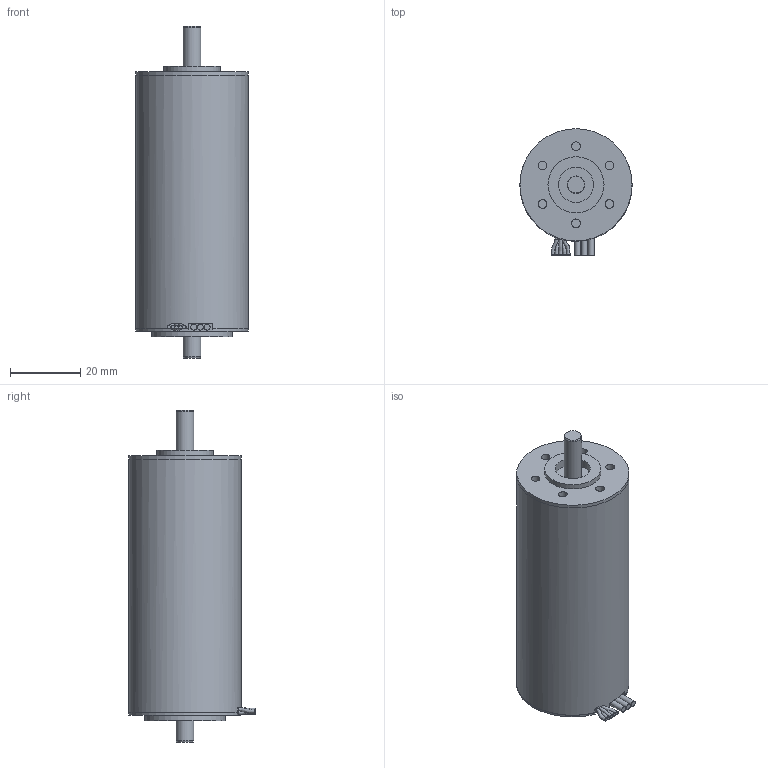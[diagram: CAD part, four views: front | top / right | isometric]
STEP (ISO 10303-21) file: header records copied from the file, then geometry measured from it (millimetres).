
FILE_DESCRIPTION(/* description */ (''),/* implementation_level */ '2;1');
FILE_NAME(/* name */ '3274G...BP4.stp',/* time_stamp */ '2017-04-18T10:45:35+02:00',/* author */ ('DR. FRITZ FAULHABER GmbH & Co. KG'),/* organization */ ('DR. FRITZ FAULHABER GmbH & Co. KG'),/* preprocessor_version */ 'ST-DEVELOPER v16',/* originating_system */ 'SIEMENS PLM Software NX 10.0',/* authorisation */ '');
FILE_SCHEMA (('AUTOMOTIVE_DESIGN { 1 0 10303 214 3 1 1 1 }'));
Length unit declared in the file: millimetre
Products named in the file (1): H00000541_D
Bounding box: 32 x 36 x 94.7 mm (x, y, z)
Volume: 60469.7 mm3; surface area: 10237.9 mm2
Topology: 1 solids, 1 shells, 94 faces, 196 edges, 131 vertices
Faces by surface type: plane 43, cylinder 43, bspline 6, cone 2
Full cylindrical faces by diameter (mm): 1 x9, 1.25 x5, 1.7 x3, 1.8 x2, 2.5 x6, 5 x2, 10 x1, 11 x1, 16 x1, 23 x1, 31.99 x1, 32 x2
Entity records: 2951 total; most frequent: CARTESIAN_POINT 1137, DIRECTION 394, ORIENTED_EDGE 276, AXIS2_PLACEMENT_3D 176, EDGE_LOOP 163, EDGE_CURVE 138, FACE_BOUND 121, VERTEX_POINT 115
